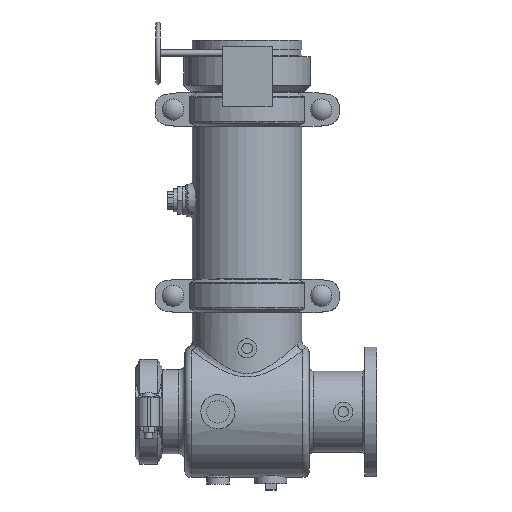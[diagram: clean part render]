
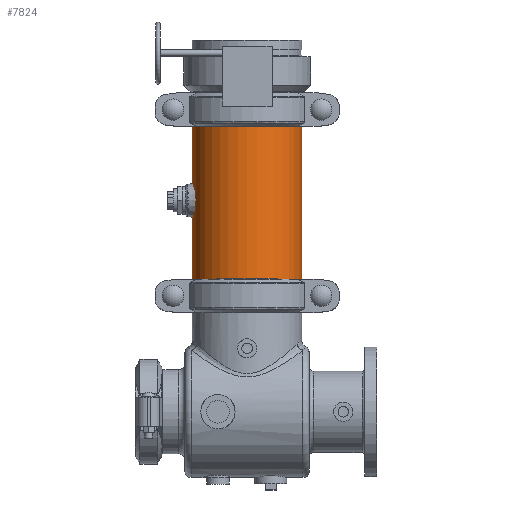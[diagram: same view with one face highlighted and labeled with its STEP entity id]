
A CAD part, top view. The second image highlights one B-rep face of the part: STEP entity #7824.
In plain terms, the highlighted cylindrical face has radius 109.537 mm (diameter 219.075 mm), a full revolution.
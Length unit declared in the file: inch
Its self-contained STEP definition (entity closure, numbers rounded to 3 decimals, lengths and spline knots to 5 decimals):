
#733=FACE_OUTER_BOUND('',#1215,.T.);
#1215=EDGE_LOOP('',(#5825,#5826,#5827,#5828,#5829,#5830));
#1723=CIRCLE('',#8646,4.3125);
#1724=CIRCLE('',#8647,4.3125);
#1725=CIRCLE('',#8649,4.3125);
#1726=CIRCLE('',#8650,4.3125);
#2154=LINE('',#13800,#2691);
#2691=VECTOR('',#10169,4.3125);
#3358=VERTEX_POINT('',#13791);
#3359=VERTEX_POINT('',#13792);
#3360=VERTEX_POINT('',#13796);
#3361=VERTEX_POINT('',#13797);
#4248=EDGE_CURVE('',#3358,#3359,#1723,.T.);
#4249=EDGE_CURVE('',#3359,#3358,#1724,.T.);
#4250=EDGE_CURVE('',#3360,#3361,#1725,.T.);
#4251=EDGE_CURVE('',#3361,#3360,#1726,.T.);
#4252=EDGE_CURVE('',#3361,#3359,#2154,.T.);
#5825=ORIENTED_EDGE('',*,*,#4250,.F.);
#5826=ORIENTED_EDGE('',*,*,#4251,.F.);
#5827=ORIENTED_EDGE('',*,*,#4252,.T.);
#5828=ORIENTED_EDGE('',*,*,#4249,.T.);
#5829=ORIENTED_EDGE('',*,*,#4248,.T.);
#5830=ORIENTED_EDGE('',*,*,#4252,.F.);
#7140=CYLINDRICAL_SURFACE('',#8648,4.3125);
#7824=ADVANCED_FACE('',(#733),#7140,.T.);
#8646=AXIS2_PLACEMENT_3D('',#13793,#10159,#10160);
#8647=AXIS2_PLACEMENT_3D('',#13794,#10161,#10162);
#8648=AXIS2_PLACEMENT_3D('',#13795,#10163,#10164);
#8649=AXIS2_PLACEMENT_3D('',#13798,#10165,#10166);
#8650=AXIS2_PLACEMENT_3D('',#13799,#10167,#10168);
#10159=DIRECTION('center_axis',(0.,-1.,0.));
#10160=DIRECTION('ref_axis',(1.,0.,0.));
#10161=DIRECTION('center_axis',(0.,-1.,0.));
#10162=DIRECTION('ref_axis',(1.,0.,0.));
#10163=DIRECTION('center_axis',(0.,-1.,0.));
#10164=DIRECTION('ref_axis',(1.,0.,0.));
#10165=DIRECTION('center_axis',(0.,-1.,0.));
#10166=DIRECTION('ref_axis',(1.,0.,0.));
#10167=DIRECTION('center_axis',(0.,-1.,0.));
#10168=DIRECTION('ref_axis',(1.,0.,0.));
#10169=DIRECTION('',(0.,1.,0.));
#13791=CARTESIAN_POINT('',(4.3125,6.012,0.));
#13792=CARTESIAN_POINT('',(-4.3125,6.012,0.));
#13793=CARTESIAN_POINT('Origin',(0.,6.012,0.));
#13794=CARTESIAN_POINT('Origin',(0.,6.012,0.));
#13795=CARTESIAN_POINT('Origin',(0.,0.,
0.));
#13796=CARTESIAN_POINT('',(4.3125,-6.012,0.));
#13797=CARTESIAN_POINT('',(-4.3125,-6.012,0.));
#13798=CARTESIAN_POINT('Origin',(0.,-6.012,0.));
#13799=CARTESIAN_POINT('Origin',(0.,-6.012,0.));
#13800=CARTESIAN_POINT('',(-4.3125,0.,0.));
